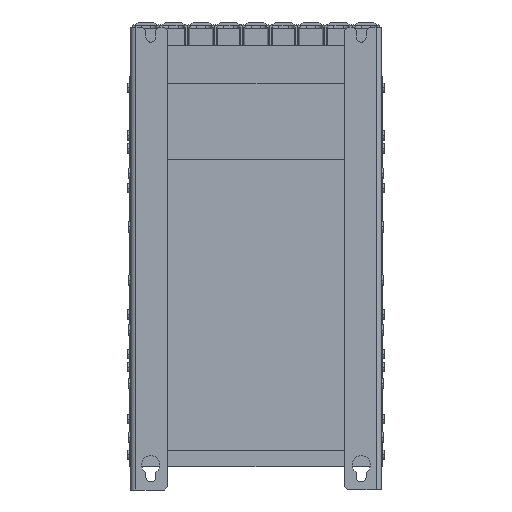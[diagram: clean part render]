
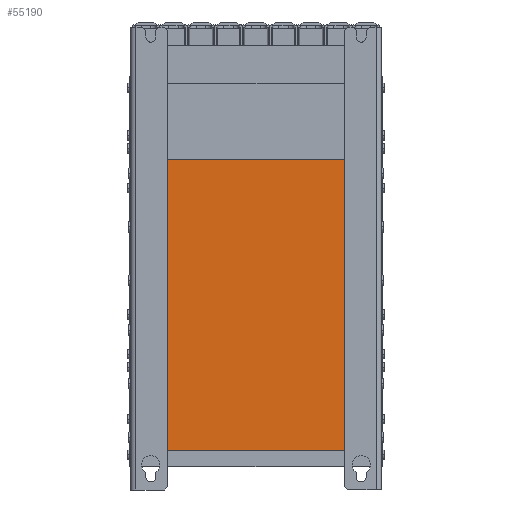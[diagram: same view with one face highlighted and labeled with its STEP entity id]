
A CAD part, front view. The second image highlights one B-rep face of the part: STEP entity #55190.
In plain terms, the highlighted planar face has unit normal (0, -1, 0).
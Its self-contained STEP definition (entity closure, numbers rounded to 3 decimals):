
#2208 = LINE ( 'NONE', #79724, #76211 ) ;
#3339 = DIRECTION ( 'NONE',  ( 1., 0., 0. ) ) ;
#3916 = LINE ( 'NONE', #97190, #85347 ) ;
#5365 = EDGE_CURVE ( 'NONE', #59995, #30908, #3916, .T. ) ;
#7246 = LINE ( 'NONE', #59428, #39643 ) ;
#13804 = DIRECTION ( 'NONE',  ( 0., 0., -1. ) ) ;
#16189 = DIRECTION ( 'NONE',  ( 1., 0., 0. ) ) ;
#16662 = VERTEX_POINT ( 'NONE', #65171 ) ;
#20665 = EDGE_LOOP ( 'NONE', ( #101884, #80178, #92273, #45503 ) ) ;
#30908 = VERTEX_POINT ( 'NONE', #80859 ) ;
#31850 = CARTESIAN_POINT ( 'NONE',  ( -160.464, -126.5, 17. ) ) ;
#34232 = VERTEX_POINT ( 'NONE', #49842 ) ;
#39643 = VECTOR ( 'NONE', #16189, 1000. ) ;
#45503 = ORIENTED_EDGE ( 'NONE', *, *, #5365, .F. ) ;
#49842 = CARTESIAN_POINT ( 'NONE',  ( 160.464, -126.5, 397. ) ) ;
#51612 = DIRECTION ( 'NONE',  ( 0., 0., -1. ) ) ;
#53446 = EDGE_CURVE ( 'NONE', #34232, #16662, #107670, .T. ) ;
#55190 = ADVANCED_FACE ( 'NONE', ( #93231 ), #60026, .T. ) ;
#59428 = CARTESIAN_POINT ( 'NONE',  ( -144., -126.5, 397. ) ) ;
#59460 = DIRECTION ( 'NONE',  ( 0., -1., 0. ) ) ;
#59995 = VERTEX_POINT ( 'NONE', #31850 ) ;
#60026 = PLANE ( 'NONE',  #110166 ) ;
#64729 = CARTESIAN_POINT ( 'NONE',  ( -144., -126.5, -403. ) ) ;
#64893 = CARTESIAN_POINT ( 'NONE',  ( 160.464, -126.5, 570.5 ) ) ;
#65171 = CARTESIAN_POINT ( 'NONE',  ( 160.464, -126.5, 17. ) ) ;
#76211 = VECTOR ( 'NONE', #3339, 1000. ) ;
#78035 = VECTOR ( 'NONE', #13804, 1000. ) ;
#78472 = EDGE_CURVE ( 'NONE', #59995, #16662, #2208, .T. ) ;
#79724 = CARTESIAN_POINT ( 'NONE',  ( -164., -126.5, 17. ) ) ;
#80178 = ORIENTED_EDGE ( 'NONE', *, *, #53446, .F. ) ;
#80859 = CARTESIAN_POINT ( 'NONE',  ( -160.464, -126.5, 397. ) ) ;
#85347 = VECTOR ( 'NONE', #106185, 1000. ) ;
#86929 = EDGE_CURVE ( 'NONE', #30908, #34232, #7246, .T. ) ;
#92273 = ORIENTED_EDGE ( 'NONE', *, *, #86929, .F. ) ;
#93231 = FACE_OUTER_BOUND ( 'NONE', #20665, .T. ) ;
#97190 = CARTESIAN_POINT ( 'NONE',  ( -160.464, -126.5, -34.5 ) ) ;
#101884 = ORIENTED_EDGE ( 'NONE', *, *, #78472, .T. ) ;
#106185 = DIRECTION ( 'NONE',  ( 0., 0., 1. ) ) ;
#107670 = LINE ( 'NONE', #64893, #78035 ) ;
#110166 = AXIS2_PLACEMENT_3D ( 'NONE', #64729, #59460, #51612 ) ;
